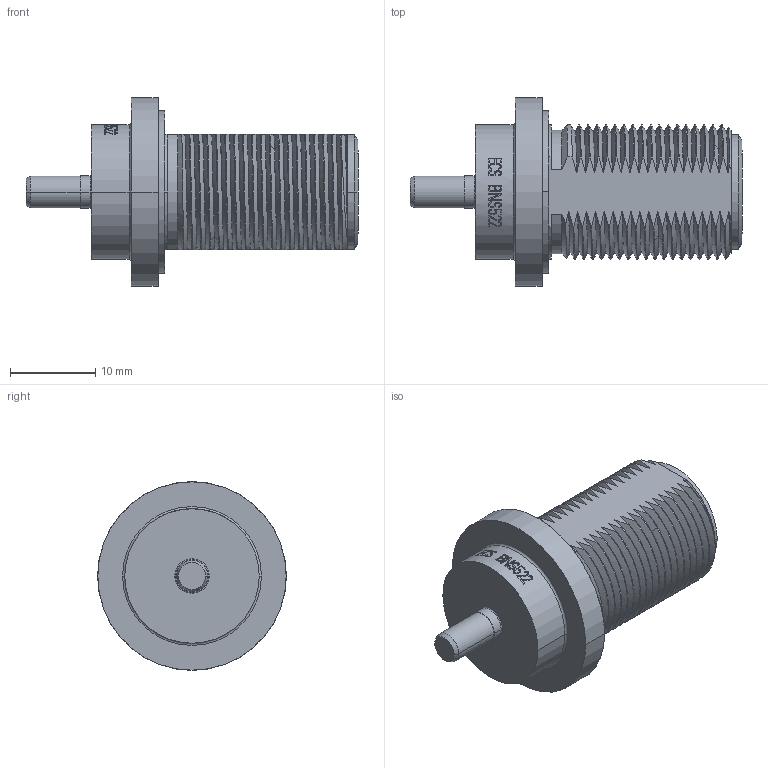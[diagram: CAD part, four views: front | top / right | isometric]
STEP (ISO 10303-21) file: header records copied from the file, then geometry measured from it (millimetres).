
FILE_DESCRIPTION((''),'2;1');
FILE_NAME('BNS522','2019-12-06T13:17:10',('Anthony.Gnas'),('Carlisle Interconnect Technologies'),'CREO PARAMETRIC BY PTC INC, 2017260','CREO PARAMETRIC BY PTC INC, 2017260','');
FILE_SCHEMA(('AUTOMOTIVE_DESIGN { 1 0 10303 214 1 1 1 1 }'));
Length unit declared in the file: inch
Products named in the file (1): BNS522
Bounding box: 38.86 x 22.1 x 22.1 mm (x, y, z)
Volume: 5645.8 mm3; surface area: 3639.1 mm2
Topology: 1 solids, 1 shells, 567 faces, 1649 edges, 1101 vertices
Faces by surface type: bspline 251, plane 168, cylinder 111, cone 27, torus 6, extrusion 4
Entity records: 31952 total; most frequent: CARTESIAN_POINT 14971, ORIENTED_EDGE 3298, DIRECTION 1718, EDGE_CURVE 1649, VERTEX_POINT 1101, B_SPLINE_CURVE_WITH_KNOTS 831, EDGE_LOOP 588, AXIS2_PLACEMENT_3D 580
